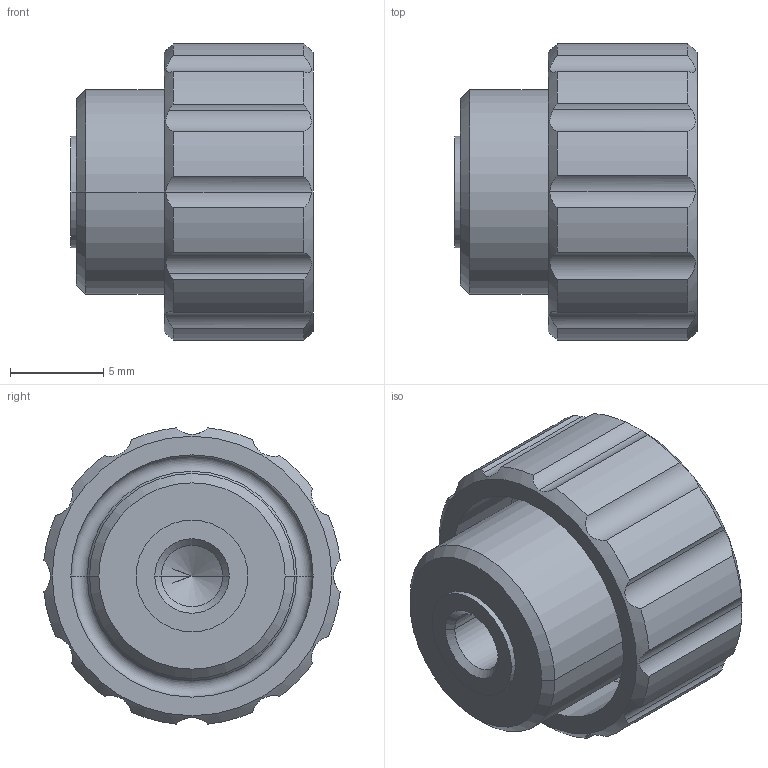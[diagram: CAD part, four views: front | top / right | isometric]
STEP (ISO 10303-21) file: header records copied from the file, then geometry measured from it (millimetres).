
FILE_DESCRIPTION (( 'STEP AP214' ), '1' );
FILE_NAME ('590-16-M4-E-ESD.step', '2025-06-16T12:57:09', ( '' ), ( '' ), 'SwSTEP 2.0', 'SolidWorks 2022', '' );
FILE_SCHEMA (( 'AUTOMOTIVE_DESIGN' ));
Length unit declared in the file: millimetre
Products named in the file (1): 590-16-M4-E-ESD
Bounding box: 13 x 15.91 x 15.91 mm (x, y, z)
Volume: 1521 mm3; surface area: 1413.2 mm2
Topology: 1 solids, 1 shells, 60 faces, 149 edges, 93 vertices
Faces by surface type: cylinder 39, cone 14, plane 5, torus 2
Entity records: 2106 total; most frequent: CARTESIAN_POINT 577, ORIENTED_EDGE 294, DIRECTION 291, EDGE_CURVE 147, AXIS2_PLACEMENT_3D 119, VERTEX_POINT 93, EDGE_LOOP 64, FACE_OUTER_BOUND 60
